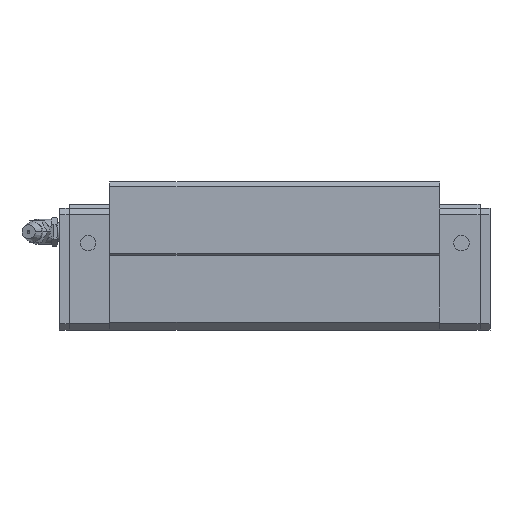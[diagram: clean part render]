
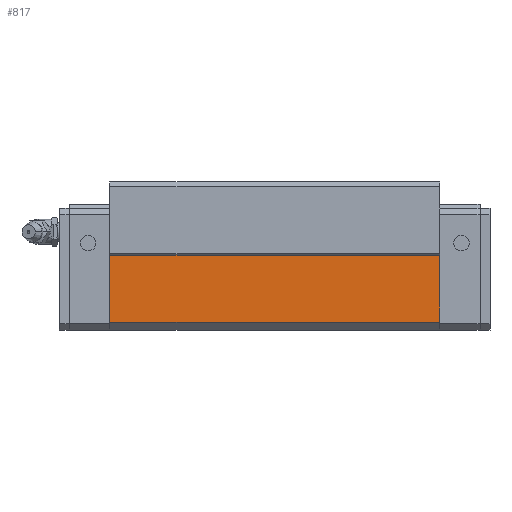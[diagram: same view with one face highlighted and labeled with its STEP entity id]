
A CAD part, front view. The second image highlights one B-rep face of the part: STEP entity #817.
In plain terms, the highlighted planar face has unit normal (0, -1, 0).
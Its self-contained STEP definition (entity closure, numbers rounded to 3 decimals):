
#756=CARTESIAN_POINT('POINT46',(122.,-34.5,
   2.5));
#757=VERTEX_POINT('VERTEX46',#756);
#764=CARTESIAN_POINT('POINT47',(16.2,-34.5,
   2.5));
#765=VERTEX_POINT('VERTEX47',#764);
#766=CARTESIAN_POINT('POS77',(16.2,-34.5,2.5)
   );
#767=DIRECTION('DIR116',(1.,0.,0.));
#768=VECTOR('VEC38',#767,1.);
#769=LINE('STRAIGHT38',#766,#768);
#770=EDGE_CURVE('EDGE76',#765,#757,#769,.T.);
#787=CARTESIAN_POINT('POINT48',(122.,-34.5,
   24.));
#788=VERTEX_POINT('VERTEX48',#787);
#789=CARTESIAN_POINT('POS80',(122.,-34.5,24.)
   );
#790=DIRECTION('DIR120',(0.,0.,1.));
#791=VECTOR('VEC40',#790,1.);
#792=LINE('STRAIGHT40',#789,#791);
#793=EDGE_CURVE('EDGE78',#757,#788,#792,.T.);
#794=ORIENTED_EDGE('COEDGE143',*,*,#793,.T.);
#795=CARTESIAN_POINT('POINT49',(16.2,-34.5,
   24.));
#796=VERTEX_POINT('VERTEX49',#795);
#797=CARTESIAN_POINT('POS81',(16.2,-34.5,24.)
   );
#798=DIRECTION('DIR121',(1.,0.,0.));
#799=VECTOR('VEC41',#798,1.);
#800=LINE('STRAIGHT41',#797,#799);
#801=EDGE_CURVE('EDGE79',#796,#788,#800,.T.);
#802=ORIENTED_EDGE('COEDGE144',*,*,#801,.F.);
#803=CARTESIAN_POINT('POS82',(16.2,-34.5,24.)
   );
#804=DIRECTION('DIR122',(0.,0.,-1.));
#805=VECTOR('VEC42',#804,1.);
#806=LINE('STRAIGHT42',#803,#805);
#807=EDGE_CURVE('EDGE80',#796,#765,#806,.T.);
#808=ORIENTED_EDGE('COEDGE145',*,*,#807,.T.);
#809=ORIENTED_EDGE('COEDGE146',*,*,#770,.T.);
#810=EDGE_LOOP('NONE',(#794,#802,#808,#809));
#811=FACE_BOUND('LOOP1',#810,.T.);
#812=CARTESIAN_POINT('POS83',(16.2,-34.5,2.5)
   );
#813=DIRECTION('DIR123',(0.,-1.,0.));
#814=DIRECTION('DIR124',(1.,0.,0.));
#815=AXIS2_PLACEMENT_3D('AXIS41',#812,#813,#814);
#816=PLANE('PLANE6',#815);
#817=ADVANCED_FACE('FACE38',(#811),#816,.T.);
